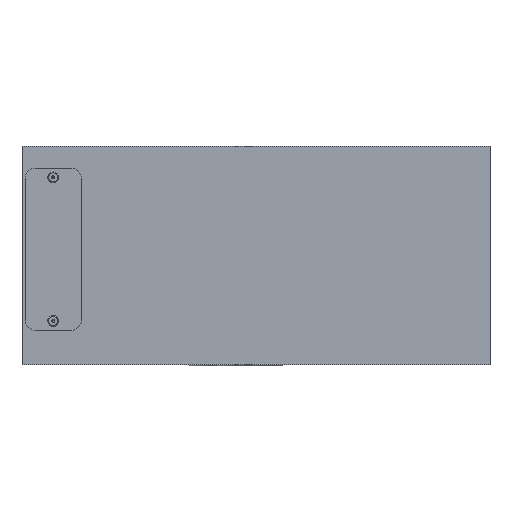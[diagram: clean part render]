
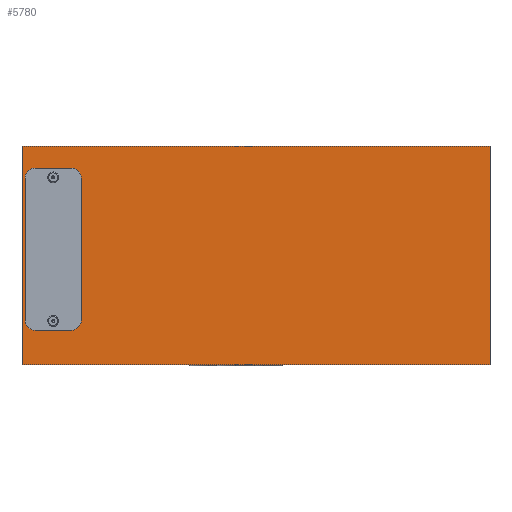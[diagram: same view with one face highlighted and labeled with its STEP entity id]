
A CAD part, left-side view. The second image highlights one B-rep face of the part: STEP entity #5780.
In plain terms, the highlighted planar face has unit normal (-1, 0, 0).
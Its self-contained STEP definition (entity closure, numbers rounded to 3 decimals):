
#155=DIRECTION('',(0.,0.,1.));
#156=VECTOR('',#155,70.);
#157=CARTESIAN_POINT('',(0.,0.,-70.));
#158=LINE('',#157,#156);
#208=DIRECTION('',(0.,-1.,0.));
#209=VECTOR('',#208,150.);
#210=CARTESIAN_POINT('',(0.,0.,0.));
#211=LINE('',#210,#209);
#521=DIRECTION('',(0.,-1.,0.));
#522=VECTOR('',#521,150.);
#523=CARTESIAN_POINT('',(0.,0.,-70.));
#524=LINE('',#523,#522);
#528=CARTESIAN_POINT('',(0.,-10.,-10.));
#529=DIRECTION('',(-1.,0.,0.));
#530=DIRECTION('',(0.,1.,0.));
#531=AXIS2_PLACEMENT_3D('',#528,#529,#530);
#536=CARTESIAN_POINT('',(0.,-10.,-10.));
#537=DIRECTION('',(-1.,0.,0.));
#538=DIRECTION('',(0.,-1.,0.));
#539=AXIS2_PLACEMENT_3D('',#536,#537,#538);
#544=CARTESIAN_POINT('',(0.,-10.,-56.));
#545=DIRECTION('',(-1.,0.,0.));
#546=DIRECTION('',(0.,1.,0.));
#547=AXIS2_PLACEMENT_3D('',#544,#545,#546);
#552=CARTESIAN_POINT('',(0.,-10.,-56.));
#553=DIRECTION('',(-1.,0.,0.));
#554=DIRECTION('',(0.,-1.,0.));
#555=AXIS2_PLACEMENT_3D('',#552,#553,#554);
#581=DIRECTION('',(0.,0.,1.));
#582=VECTOR('',#581,70.);
#583=CARTESIAN_POINT('',(0.,-150.,-70.));
#584=LINE('',#583,#582);
#5135=CARTESIAN_POINT('',(0.,0.,0.));
#5137=VERTEX_POINT('',#5135);
#5141=CARTESIAN_POINT('',(0.,0.,-70.));
#5142=VERTEX_POINT('',#5141);
#5143=CARTESIAN_POINT('',(0.,-150.,0.));
#5145=VERTEX_POINT('',#5143);
#5149=CARTESIAN_POINT('',(0.,-150.,-70.));
#5150=VERTEX_POINT('',#5149);
#5515=CARTESIAN_POINT('',(0.,-9.,-10.));
#5516=VERTEX_POINT('',#5515);
#5517=CARTESIAN_POINT('',(0.,-11.,-10.));
#5518=VERTEX_POINT('',#5517);
#5525=CARTESIAN_POINT('',(0.,-9.,-56.));
#5526=VERTEX_POINT('',#5525);
#5527=CARTESIAN_POINT('',(0.,-11.,-56.));
#5528=VERTEX_POINT('',#5527);
#5756=CARTESIAN_POINT('',(0.,0.,-70.));
#5757=DIRECTION('',(-1.,0.,0.));
#5758=DIRECTION('',(0.,0.,1.));
#5759=AXIS2_PLACEMENT_3D('',#5756,#5757,#5758);
#5760=PLANE('',#5759);
#5761=ORIENTED_EDGE('',*,*,#5536,.T.);
#5762=ORIENTED_EDGE('',*,*,#5579,.T.);
#5764=ORIENTED_EDGE('',*,*,#5763,.F.);
#5765=ORIENTED_EDGE('',*,*,#5688,.F.);
#5766=EDGE_LOOP('',(#5761,#5762,#5764,#5765));
#5767=FACE_OUTER_BOUND('',#5766,.F.);
#5769=ORIENTED_EDGE('',*,*,#5768,.T.);
#5771=ORIENTED_EDGE('',*,*,#5770,.T.);
#5772=EDGE_LOOP('',(#5769,#5771));
#5773=FACE_BOUND('',#5772,.F.);
#5775=ORIENTED_EDGE('',*,*,#5774,.T.);
#5777=ORIENTED_EDGE('',*,*,#5776,.T.);
#5778=EDGE_LOOP('',(#5775,#5777));
#5779=FACE_BOUND('',#5778,.F.);
#532=CIRCLE('',#531,1.);
#540=CIRCLE('',#539,1.);
#548=CIRCLE('',#547,1.);
#556=CIRCLE('',#555,1.);
#5536=EDGE_CURVE('',#5142,#5137,#158,.T.);
#5579=EDGE_CURVE('',#5137,#5145,#211,.T.);
#5688=EDGE_CURVE('',#5142,#5150,#524,.T.);
#5763=EDGE_CURVE('',#5150,#5145,#584,.T.);
#5768=EDGE_CURVE('',#5516,#5518,#532,.T.);
#5770=EDGE_CURVE('',#5518,#5516,#540,.T.);
#5774=EDGE_CURVE('',#5526,#5528,#548,.T.);
#5776=EDGE_CURVE('',#5528,#5526,#556,.T.);
#5780=ADVANCED_FACE('',(#5767,#5773,#5779),#5760,.T.);
